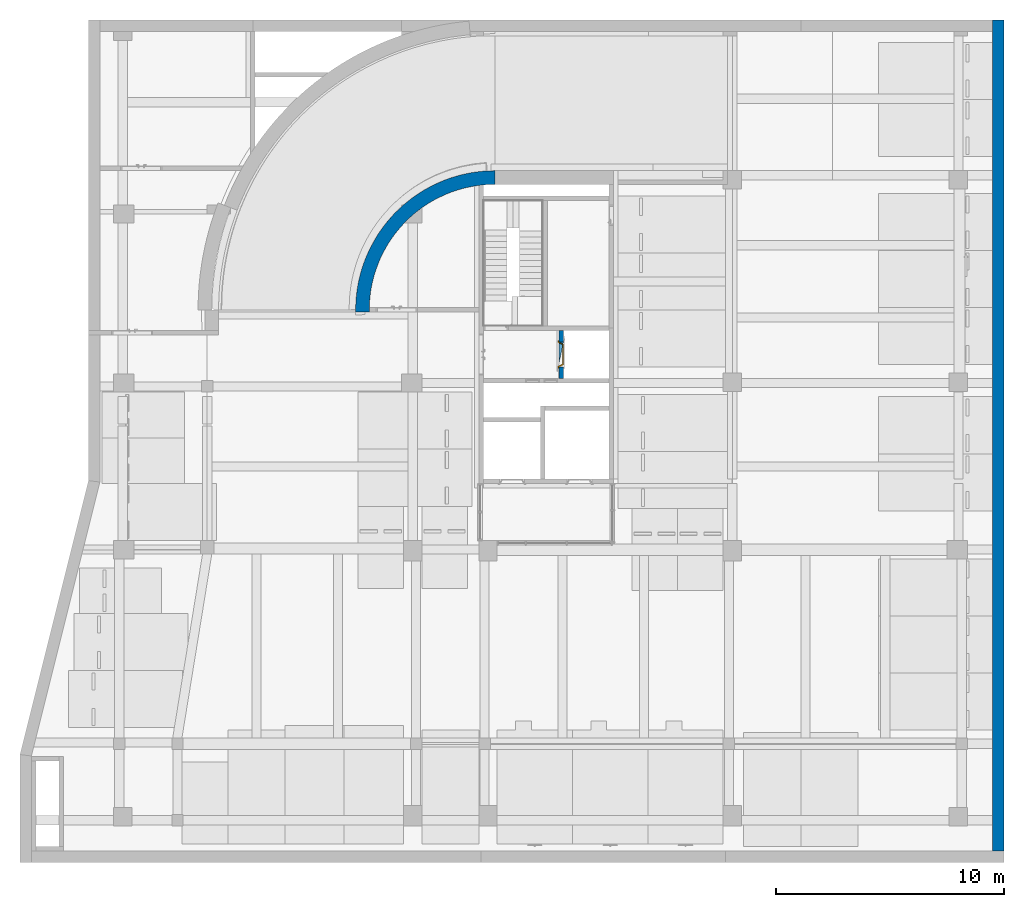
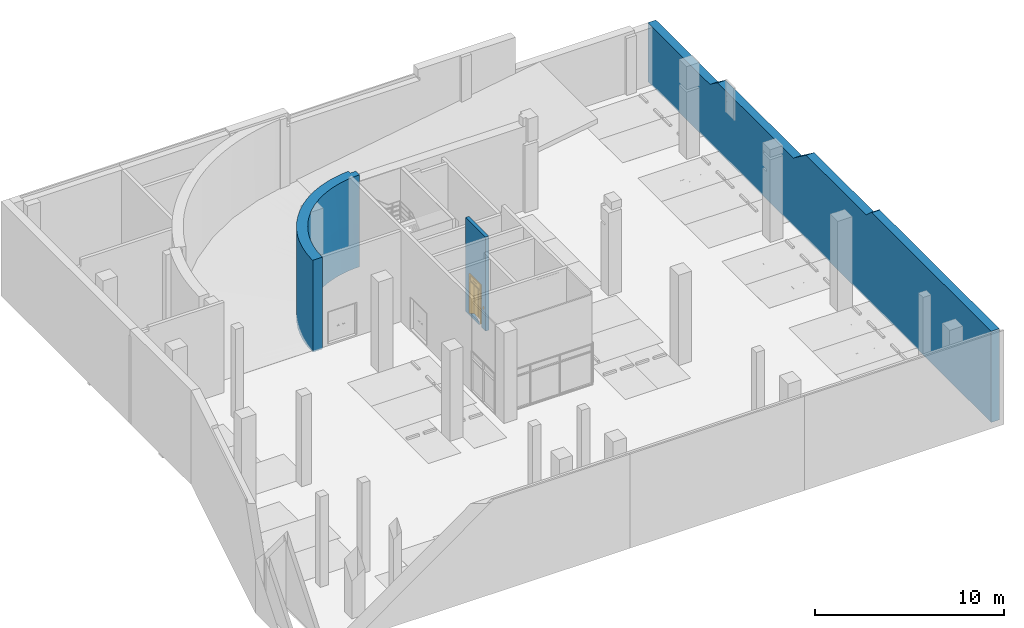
# One storey, part 24 of 29: 3 walls, 1 door, 1 opening.
"""IFC2X3 building model written with IfcOpenShell, lengths in millimetres."""

from ifc_helpers import new_model, entity, si_unit, converted_unit, derived_unit, direction, frame, frame_2d, origin, place, context, subcontext, project, spatial, rectangle, extrude, faceted_brep, source, transform, mapped, material, material_list, layer, layer_set, type_object, type_shapes, element, fill, save


model = new_model("IFC2X3")

# Units and contexts
model_context = context("Model", 3, precision=0.01, world=origin(), true_north=direction((6.123031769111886e-17, 1.0)))
body_context = subcontext(model_context, "Body", "Model", "MODEL_VIEW")
ifc_project = project(units=[si_unit("LENGTHUNIT", "METRE", prefix="MILLI"), si_unit("AREAUNIT", "SQUARE_METRE"), si_unit("VOLUMEUNIT", "CUBIC_METRE"), converted_unit("PLANEANGLEUNIT", "DEGREE", entity("IfcRatioMeasure", 0.017453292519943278), si_unit("PLANEANGLEUNIT", "RADIAN"), dimensions=[0, 0, 0, 0, 0, 0, 0]), si_unit("MASSUNIT", "GRAM", prefix="KILO"), derived_unit("MASSDENSITYUNIT", [(si_unit("MASSUNIT", "GRAM", prefix="KILO"), 1), (si_unit("LENGTHUNIT", "METRE"), -3)]), derived_unit("MOMENTOFINERTIAUNIT", [(si_unit("LENGTHUNIT", "METRE"), 4)]), si_unit("TIMEUNIT", "SECOND"), si_unit("FREQUENCYUNIT", "HERTZ"), si_unit("THERMODYNAMICTEMPERATUREUNIT", "DEGREE_CELSIUS"), derived_unit("THERMALTRANSMITTANCEUNIT", [(si_unit("MASSUNIT", "GRAM", prefix="KILO"), 1), (si_unit("THERMODYNAMICTEMPERATUREUNIT", "KELVIN"), -1), (si_unit("TIMEUNIT", "SECOND"), -3)]), derived_unit("VOLUMETRICFLOWRATEUNIT", [(si_unit("LENGTHUNIT", "METRE"), 3), (si_unit("TIMEUNIT", "SECOND"), -1)]), derived_unit("MASSFLOWRATEUNIT", [(si_unit("MASSUNIT", "GRAM", prefix="KILO"), 1), (si_unit("TIMEUNIT", "SECOND"), -1)]), derived_unit("ROTATIONALFREQUENCYUNIT", [(si_unit("TIMEUNIT", "SECOND"), -1)]), si_unit("ELECTRICCURRENTUNIT", "AMPERE"), si_unit("ELECTRICVOLTAGEUNIT", "VOLT"), si_unit("POWERUNIT", "WATT"), si_unit("FORCEUNIT", "NEWTON", prefix="KILO"), si_unit("ILLUMINANCEUNIT", "LUX"), si_unit("LUMINOUSFLUXUNIT", "LUMEN"), si_unit("LUMINOUSINTENSITYUNIT", "CANDELA"), derived_unit("USERDEFINED", [(si_unit("MASSUNIT", "GRAM", prefix="KILO"), -1), (si_unit("LENGTHUNIT", "METRE"), -2), (si_unit("TIMEUNIT", "SECOND"), 3), (si_unit("LUMINOUSFLUXUNIT", "LUMEN"), 1)]), derived_unit("SOUNDPOWERUNIT", [(si_unit("MASSUNIT", "GRAM", prefix="KILO"), 1), (si_unit("LENGTHUNIT", "METRE"), 2), (si_unit("TIMEUNIT", "SECOND"), -3)]), derived_unit("SOUNDPRESSUREUNIT", [(si_unit("MASSUNIT", "GRAM", prefix="KILO"), 1), (si_unit("LENGTHUNIT", "METRE"), -1), (si_unit("TIMEUNIT", "SECOND"), -2)]), derived_unit("LINEARVELOCITYUNIT", [(si_unit("LENGTHUNIT", "METRE"), 1), (si_unit("TIMEUNIT", "SECOND"), -1)]), si_unit("PRESSUREUNIT", "PASCAL"), derived_unit("USERDEFINED", [(si_unit("LENGTHUNIT", "METRE"), -2), (si_unit("MASSUNIT", "GRAM", prefix="KILO"), 1), (si_unit("TIMEUNIT", "SECOND"), -2)]), derived_unit("LINEARFORCEUNIT", [(si_unit("MASSUNIT", "GRAM", prefix="KILO"), 1), (si_unit("LENGTHUNIT", "METRE"), 1), (si_unit("TIMEUNIT", "SECOND"), -2), (si_unit("LENGTHUNIT", "METRE"), -1)]), derived_unit("PLANARFORCEUNIT", [(si_unit("MASSUNIT", "GRAM", prefix="KILO"), 1), (si_unit("LENGTHUNIT", "METRE"), 1), (si_unit("TIMEUNIT", "SECOND"), -2), (si_unit("LENGTHUNIT", "METRE"), -2)])], contexts=[model_context])

# Site, building, storey
site_placement = place(None, frame((-14167.972527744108, -657.2125860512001, 0.0)))
site = spatial("IfcSite", under=ifc_project, at=site_placement, Name="Default", CompositionType="ELEMENT")
building_placement = place(site_placement, origin())
building = spatial("IfcBuilding", under=site, at=building_placement, Name="Sample Building", CompositionType="ELEMENT")
storey_placement = place(building_placement, frame((0.0, 0.0, -6100.0)))
storey = spatial("IfcBuildingStorey", under=building, at=storey_placement, Name="지하1층", CompositionType="ELEMENT", Elevation=-6099.999999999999)

# Walls
ifc_material_1 = material(Name="KBIMS-콘크리트")
ifc_layer_1 = layer(ifc_material_1, 500.00000000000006)
ifc_layer_set_1 = layer_set([ifc_layer_1], Name="기본 벽:WA111-철근콘크리트구조 벽 500mm_BW3")
wall_type_1 = type_object("IfcWallType", Name="기본 벽:WA111-철근콘크리트구조 벽 500mm_BW3", PredefinedType="STANDARD", material=ifc_layer_set_1)
wall_1_placement = place(storey_placement, frame((52817.97249113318, 35857.21230798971, 0.0), z_axis=(0.0, 0.0, 1.0), x_axis=(0.0, -1.0, 0.0)))
element("IfcWall", 1, at=wall_1_placement, inside=storey, type_object=wall_type_1, Name="기본 벽:WA111-철근콘크리트구조 벽 500mm_BW3", ObjectType="기본 벽:WA111-철근콘크리트구조 벽 500mm_BW3", context=body_context, shape_type="Brep", body=[
    faceted_brep([(0.0, -250.0, 0.0), (500.0, -250.0, 0.0), (36400.0, -250.0, 0.0), (36400.0, -250.0, 100.0), (36400.0, -250.0, 5900.0), (23739.999578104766, -250.0, 5900.0), (23739.999578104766, -250.0, 5941.869968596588), (23199.999578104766, -250.0, 5441.869968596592), (23199.999578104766, -250.0, 5400.0), (16782.004464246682, -250.0, 5400.0), (15500.0, -250.0, 4450.36706352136), (15500.0, -250.0, 4400.0), (7410.0, -250.0, 4400.0), (7410.0, -250.0, 4413.330026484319), (6599.999912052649, -250.0, 3813.3299518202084), (6599.999912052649, -250.0, 3800.0), (500.0, -250.0, 3800.0), (0.0, -250.0, 3800.0), (36400.0, 250.0, 0.0), (500.03468359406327, 250.0, 0.0), (0.0, 250.0, 0.0), (0.0, 250.0, 3800.0), (6599.999912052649, 250.0, 3800.0), (6599.999912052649, 250.0, 3813.3299518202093), (7410.0, 250.0, 4413.330026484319), (7410.0, 250.0, 4400.0), (15500.0, 250.0, 4400.0), (15500.0, 250.0, 4450.36706352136), (16782.004464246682, 250.0, 5400.0), (16850.0, 250.0, 5400.0), (23199.999578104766, 250.0, 5400.0), (23199.999578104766, 250.0, 5441.869968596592), (23739.999578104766, 250.0, 5941.8699685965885), (23739.999578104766, 250.0, 5900.0), (36400.0, 250.0, 5900.0)], [[[0, 1, 2, 3, 4, 5, 6, 7, 8, 9, 10, 11, 12, 13, 14, 15, 16, 17]], [[18, 19, 20, 21, 22, 23, 24, 25, 26, 27, 28, 29, 30, 31, 32, 33, 34]], [[22, 15, 14, 23]], [[2, 1, 0, 20, 19, 18]], [[6, 32, 31, 7]], [[28, 9, 8, 30, 29]], [[9, 28, 27, 10]], [[11, 26, 25, 12]], [[14, 13, 24, 23]], [[15, 22, 21, 17, 16]], [[5, 4, 34, 33]], [[5, 33, 32, 6]], [[26, 11, 10, 27]], [[30, 8, 7, 31]], [[2, 18, 34, 4, 3]], [[0, 17, 21, 20]], [[13, 12, 25, 24]]]),
])
ifc_layer_2 = layer(ifc_material_1, 600.0)
ifc_layer_set_2 = layer_set([ifc_layer_2], Name="기본 벽:WA111-철근콘크리트구조 벽 300mm_RaW1")
wall_type_2 = type_object("IfcWallType", Name="기본 벽:WA111-철근콘크리트구조 벽 300mm_RaW1", PredefinedType="STANDARD", material=ifc_layer_set_2)
wall_2_placement = place(storey_placement, frame((24968.931248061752, 23051.7577625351, 0.0)))
element("IfcWall", 2, at=wall_2_placement, inside=storey, type_object=wall_type_2, Name="기본 벽:WA111-철근콘크리트구조 벽 300mm_RaW1", ObjectType="기본 벽:WA111-철근콘크리트구조 벽 300mm_RaW1", context=body_context, shape_type="Brep", body=[
    faceted_brep([(1256.4441342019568, 3206.230497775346, 5950.0), (1387.1876230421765, 3389.590297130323, 5950.0), (1525.3280817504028, 3567.4446977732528, 5950.0), (1670.633925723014, 3739.4954123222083, 5950.0), (1822.8603493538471, 3905.452567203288, 5950.0), (1967.7995054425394, 4051.539535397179, 5950.0), (2118.0965378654, 4192.0969419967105, 5950.0), (2273.543509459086, 4326.931269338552, 5950.0), (2433.924933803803, 4455.855932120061, 5950.0), (2599.0154746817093, 4578.689712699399, 5950.0), (2779.816323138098, 4702.658139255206, 5950.0), (2965.4108078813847, 4819.321064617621, 5950.0), (3145.029875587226, 4922.738392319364, 5950.0), (3328.419513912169, 5019.3153769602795, 5950.0), (3515.3170317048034, 5108.913721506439, 5950.0), (3705.4571736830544, 5191.406348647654, 5950.0), (3898.570187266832, 5266.676277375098, 5950.0), (4094.382116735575, 5334.61674058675, 5950.0), (4292.615184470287, 5395.131334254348, 5950.0), (4492.98847668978, 5448.134226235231, 5950.0), (4695.216906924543, 5493.549926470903, 5950.0), (4898.974719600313, 5531.3069300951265, 5950.0), (4936.621537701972, 5537.4184860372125, 5950.0), (4974.278306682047, 5543.262780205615, 5950.0), (5035.688471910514, 5552.223546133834, 5950.0), (5097.1874394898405, 5560.488464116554, 5950.0), (5197.098394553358, 5572.4157495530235, 5950.0), (5297.187127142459, 5582.51045320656, 5950.0), (5335.749942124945, 5585.907188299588, 5950.0), (5374.34037313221, 5589.03185819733, 5950.0), (5586.510342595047, 5601.34670381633, 5950.0), (5799.041243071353, 5605.4545454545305, 5950.0), (5799.0412430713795, 6005.454545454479, 5950.0), (5449.03251347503, 6005.454545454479, 5950.0), (5449.03251347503, 6195.404782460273, 5950.0), (5411.656129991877, 6193.14152608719, 5950.0), (5374.298910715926, 6190.649201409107, 5950.0), (5335.727576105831, 6187.834050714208, 5950.0), (5297.161767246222, 6184.772840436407, 5950.0), (5197.109425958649, 6175.683378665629, 5950.0), (5097.202870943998, 6164.944467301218, 5950.0), (5035.706246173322, 6157.5054112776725, 5950.0), (4974.289140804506, 6149.441247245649, 5950.0), (4936.630126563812, 6144.183473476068, 5950.0), (4898.974188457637, 6138.685013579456, 5950.0), (4431.975076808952, 6050.29517385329, 5950.0), (3973.231962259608, 5925.799936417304, 5950.0), (3525.5763501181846, 5765.96312512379, 5950.0), (3091.7258663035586, 5571.755255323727, 5950.0), (2674.3143161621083, 5344.3553490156, 5950.0), (2538.7307670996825, 5261.070473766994, 5950.0), (2405.3763075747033, 5174.284618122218, 5950.0), (2274.314178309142, 5084.038118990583, 5950.0), (2236.559385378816, 5057.092962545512, 5950.0), (2199.0109618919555, 5029.861247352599, 5950.0), (2060.552504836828, 4925.589601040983, 5950.0), (1925.1182801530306, 4817.43086939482, 5950.0), (1792.7934829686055, 4705.452103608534, 5950.0), (1745.7003723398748, 4664.009994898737, 5950.0), (1699.0309921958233, 4622.080607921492, 5950.0), (1698.815521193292, 4621.885551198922, 5950.0), (1698.6049024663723, 4621.69377083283, 5950.0), (1591.177731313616, 4521.774808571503, 5950.0), (1486.2108600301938, 4419.326728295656, 5950.0), (1430.3465458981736, 4362.743194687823, 5950.0), (1375.2299971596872, 4305.4415303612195, 5950.0), (1060.6414955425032, 3947.0125409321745, 5950.0), (775.0053773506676, 3565.0879971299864, 5950.0), (520.0799484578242, 3162.015954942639, 5950.0), (297.42323630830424, 2740.259909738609, 5950.0), (108.39614560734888, 2302.397506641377, 5950.0), (-45.84585480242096, 1851.1048005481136, 5950.0), (-164.35978786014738, 1389.1399213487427, 5950.0), (-246.4203516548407, 919.3271700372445, 5950.0), (-269.95736283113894, 719.6661714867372, 5950.0), (-286.9022535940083, 519.3273459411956, 5950.0), (-290.50592988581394, 462.4072430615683, 5950.0), (-293.57668643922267, 405.454401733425, 5950.0), (-300.13795497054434, 205.52007484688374, 5950.0), (-300.13902971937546, 5.454545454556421, 5950.0), (299.95040912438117, 5.45454545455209, 5950.0), (299.04124309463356, 105.4705351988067, 5950.0), (299.9505996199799, 205.4650198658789, 5950.0), (302.6800467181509, 305.4885406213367, 5950.0), (307.2299946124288, 405.458432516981, 5950.0), (310.6370151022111, 462.41256877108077, 5950.0), (314.634882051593, 519.3226875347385, 5950.0), (333.45329263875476, 719.741413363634, 5950.0), (359.5927503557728, 919.332140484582, 5950.0), (397.4694824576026, 1141.3225461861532, 5950.0), (444.4028087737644, 1361.578439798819, 5950.0), (500.31318475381, 1579.7275744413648, 5950.0), (565.1068251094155, 1795.4043992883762, 5950.0), (638.6750736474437, 2008.2474920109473, 5950.0), (720.8945880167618, 2217.9001778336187, 5950.0), (811.6275459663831, 2424.011125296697, 5950.0), (910.7218757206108, 2626.234933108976, 5950.0), (1018.0115100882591, 2824.232707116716, 5950.0), (1133.3166638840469, 3017.6726264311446, 5950.0), (5799.041243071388, 6205.454545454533, 0.0), (5799.041243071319, 5605.4545454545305, 0.0), (5547.853252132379, 5599.71560525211, 0.0), (5297.187296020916, 5582.51049450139, 0.0), (5197.097200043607, 5572.41561803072, 0.0), (5097.185888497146, 5560.48831686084, 0.0), (4853.487961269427, 5523.565746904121, 0.0), (4611.685555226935, 5475.760539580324, 0.0), (4372.2679578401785, 5417.169710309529, 0.0), (4135.715872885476, 5347.910907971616, 0.0), (3902.504255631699, 5268.123182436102, 0.0), (3673.101361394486, 5177.966706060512, 0.0), (3447.967807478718, 5077.622452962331, 0.0), (3227.5556503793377, 4967.291836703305, 0.0), (3012.3074800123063, 4847.196307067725, 0.0), (2802.6559821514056, 4717.577198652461, 0.0), (2599.0178163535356, 4578.691518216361, 0.0), (2393.378038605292, 4424.187940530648, 0.0), (2195.1840555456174, 4260.236533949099, 0.0), (2004.8723285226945, 4087.198164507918, 0.0), (1822.8559031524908, 3905.447517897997, 0.0), (1660.2925014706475, 3727.7133509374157, 0.0), (1505.6647874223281, 3543.0290697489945, 0.0), (1359.2718085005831, 3351.7520314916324, 0.0), (1221.3943883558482, 3154.249270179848, 0.0), (1092.2968483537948, 2950.899537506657, 0.0), (972.2266834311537, 2742.0927851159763, 0.0), (861.4140886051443, 2528.229418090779, 0.0), (760.0715185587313, 2309.7195284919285, 0.0), (668.3932811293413, 2086.9821103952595, 0.0), (586.5551654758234, 1860.4442579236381, 0.0), (514.7141056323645, 1630.5403478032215, 0.0), (453.00788009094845, 1397.7112080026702, 0.0), (401.5548479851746, 1162.4032740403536, 0.0), (360.453722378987, 925.0677345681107, 0.0), (329.7833800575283, 686.1596581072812, 0.0), (309.60271988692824, 446.137242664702, 0.0), (299.9508993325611, 205.47420627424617, 0.0), (299.04124310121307, 105.47265813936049, 0.0), (299.95040912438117, 5.45454545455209, 0.0), (-300.13902971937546, 5.454545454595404, 0.0), (-300.2167918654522, 10.315577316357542, 0.0), (-300.2906809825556, 15.176750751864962, 0.0), (-298.4830618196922, 279.22839637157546, 0.0), (-285.24923642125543, 542.9581010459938, 0.0), (-260.61396412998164, 805.8678304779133, 0.0), (-224.6234548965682, 1067.4647358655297, 0.0), (-177.3451811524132, 1327.258665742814, 0.0), (-53.29115972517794, 1825.979304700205, 0.0), (112.30115893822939, 2312.4858582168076, 0.0), (318.2561227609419, 2783.3258016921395, 0.0), (699.5946995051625, 3452.937920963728, 0.0), (999.4598644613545, 3870.2943282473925, 0.0), (1333.3910101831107, 4260.929006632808, 0.0), (1699.0159826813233, 4622.066991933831, 0.0), (1745.6934629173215, 4664.003851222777, 0.0), (1792.7998544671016, 4705.4574522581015, 0.0), (2194.3233367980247, 5026.4309542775, 0.0), (2621.448776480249, 5312.460030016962, 0.0), (3071.1399102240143, 5561.511209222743, 0.0), (3540.203652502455, 5771.8160534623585, 0.0), (3780.9641709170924, 5861.960858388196, 0.0), (4272.805413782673, 6011.434920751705, 0.0), (4775.486827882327, 6118.9673590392, 0.0), (5285.439095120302, 6183.794189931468, 0.0), (5799.041243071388, 6205.454545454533, 1265.0), (5799.041243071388, 6205.454545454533, 1565.0), (5449.03251347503, 6195.404782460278, 5550.0), (5005.000990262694, 6153.553426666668, 2749.8478241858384), (5799.041243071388, 6205.454545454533, 5550.0), (5799.041243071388, 6205.454545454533, 5350.0), (5623.964753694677, 6202.941587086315, 5550.0), (4555.235418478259, 6077.300748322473, 2828.9454773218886), (2982.673769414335, 5516.376301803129, 2996.6811334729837), (2606.251135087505, 5303.155126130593, 3000.580821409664), (3660.108967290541, 5818.156946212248, 2993.289292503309), (2217.761253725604, 5043.514249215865, 2973.7090814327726), (4122.586191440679, 5970.56310880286, 2975.315324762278), (1769.1901138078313, 4684.788544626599, 2974.9975322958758), (199.28283340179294, 2524.6911509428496, 2989.913636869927), (26.862968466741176, 2078.259139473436, 2952.5465614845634), (-300.13902971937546, 5.454545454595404, 2727.108361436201), (-288.77087751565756, 490.8680693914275, 2966.862175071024), (-202.39024912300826, 1197.6175573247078, 3063.049467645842), (1402.7017373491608, 4334.1894567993, 2938.44646595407), (-104.153850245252, 1642.428094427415, 3097.841599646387), (404.62820193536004, 2953.314784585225, 3062.358312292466), (631.454028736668, 3346.7571203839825, 3105.273704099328), (914.0894659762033, 3758.842854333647, 3133.191347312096), (299.95040912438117, 5.45454545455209, 3360.4826676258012), (312.56210573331, 490.8720795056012, 2969.910249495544), (4917.811742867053, 5534.398693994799, 2958.441406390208), (5355.028853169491, 5587.502793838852, 2962.2551694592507), (352.9055558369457, 873.3126548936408, 2722.689354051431), (419.8087137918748, 1251.6907322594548, 2993.6133158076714), (1894.6484986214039, 3979.1759212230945, 2974.9980112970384), (2515.8989466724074, 4518.047508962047, 2974.998028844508), (531.6060196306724, 1687.8976461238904, 3013.7380981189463), (2195.1876614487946, 4260.239661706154, 2928.9198036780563), (3236.2697213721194, 4971.890831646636, 3020.2844316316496), (765.2060519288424, 2321.420084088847, 3028.2537362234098), (3801.65908724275, 5229.951059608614, 2971.228770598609), (4392.552134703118, 5422.5767358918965, 3018.8224760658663), (1074.6739299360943, 2921.542876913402, 3023.960543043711), (1455.347466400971, 3479.224599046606, 3000.856912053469), (2867.278609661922, 4758.92291446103, 3009.473130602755), (5799.041243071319, 5605.4545454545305, 2775.0), (5799.041243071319, 5605.4545454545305, 5550.0), (5799.041243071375, 6005.454545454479, 5550.0), (5449.03251347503, 6005.454545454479, 5550.0)], [[[0, 1, 2, 3, 4, 5, 6, 7, 8, 9, 10, 11, 12, 13, 14, 15, 16, 17, 18, 19, 20, 21, 22, 23, 24, 25, 26, 27, 28, 29, 30, 31, 32, 33, 34, 35, 36, 37, 38, 39, 40, 41, 42, 43, 44, 45, 46, 47, 48, 49, 50, 51, 52, 53, 54, 55, 56, 57, 58, 59, 60, 61, 62, 63, 64, 65, 66, 67, 68, 69, 70, 71, 72, 73, 74, 75, 76, 77, 78, 79, 80, 81, 82, 83, 84, 85, 86, 87, 88, 89, 90, 91, 92, 93, 94, 95, 96, 97, 98]], [[99, 100, 101, 102, 103, 104, 105, 106, 107, 108, 109, 110, 111, 112, 113, 114, 115, 116, 117, 118, 119, 120, 121, 122, 123, 124, 125, 126, 127, 128, 129, 130, 131, 132, 133, 134, 135, 136, 137, 138, 139, 140, 141, 142, 143, 144, 145, 146, 147, 148, 149, 150, 151, 152, 153, 154, 155, 156, 157, 158, 159, 160, 161, 162, 163]], [[164, 99, 163, 165]], [[166, 163, 167]], [[168, 169, 165, 170]], [[165, 166, 170]], [[166, 165, 163]], [[162, 171, 167]], [[158, 172, 159]], [[172, 157, 173]], [[172, 174, 159]], [[175, 157, 156]], [[45, 44, 171]], [[160, 174, 176]], [[176, 171, 161]], [[175, 55, 54]], [[175, 56, 55]], [[162, 161, 171]], [[177, 56, 175]], [[70, 178, 179]], [[155, 177, 175]], [[175, 54, 53]], [[177, 154, 153]], [[167, 39, 38]], [[140, 139, 180]], [[41, 167, 42]], [[42, 167, 43]], [[57, 177, 58]], [[167, 40, 39]], [[78, 181, 180]], [[53, 52, 175]], [[35, 34, 166]], [[40, 167, 41]], [[37, 36, 166]], [[38, 37, 166]], [[51, 175, 52]], [[35, 166, 36]], [[163, 162, 167]], [[77, 76, 181]], [[38, 166, 167]], [[174, 46, 176]], [[50, 49, 173]], [[73, 72, 182]], [[51, 50, 173]], [[175, 156, 155]], [[144, 182, 145]], [[51, 173, 175]], [[148, 147, 179]], [[153, 183, 177]], [[167, 171, 44]], [[175, 173, 157]], [[174, 160, 159]], [[174, 172, 47]], [[49, 48, 172]], [[176, 45, 171]], [[47, 46, 174]], [[63, 183, 64]], [[158, 157, 172]], [[167, 44, 43]], [[147, 146, 184]], [[178, 69, 185]], [[186, 187, 150]], [[149, 185, 150]], [[148, 178, 149]], [[154, 177, 155]], [[183, 152, 151]], [[183, 153, 152]], [[187, 183, 151]], [[70, 179, 71]], [[181, 143, 142]], [[78, 180, 79]], [[180, 142, 141]], [[77, 181, 78]], [[146, 145, 182]], [[143, 181, 144]], [[180, 141, 140]], [[181, 182, 144]], [[182, 184, 146]], [[75, 181, 76]], [[187, 186, 67]], [[183, 63, 62]], [[72, 184, 182]], [[65, 183, 66]], [[67, 66, 187]], [[147, 184, 179]], [[183, 65, 64]], [[176, 161, 160]], [[183, 187, 66]], [[58, 177, 59]], [[150, 187, 151]], [[60, 177, 61]], [[61, 177, 62]], [[178, 185, 149]], [[177, 60, 59]], [[68, 67, 186]], [[45, 176, 46]], [[177, 183, 62]], [[182, 181, 73]], [[74, 181, 75]], [[181, 142, 180]], [[74, 73, 181]], [[172, 48, 47]], [[69, 68, 185]], [[178, 70, 69]], [[179, 184, 71]], [[148, 179, 178]], [[49, 172, 173]], [[72, 71, 184]], [[150, 185, 186]], [[185, 68, 186]], [[57, 56, 177]], [[188, 82, 81]], [[86, 189, 87]], [[189, 135, 134]], [[23, 190, 24]], [[83, 189, 84]], [[136, 189, 188]], [[190, 105, 104]], [[188, 189, 83]], [[29, 191, 30]], [[191, 102, 101]], [[192, 88, 87]], [[85, 189, 86]], [[83, 82, 188]], [[81, 80, 188]], [[193, 90, 89]], [[89, 192, 193]], [[194, 119, 118]], [[192, 89, 88]], [[195, 116, 115]], [[84, 189, 85]], [[196, 92, 91]], [[197, 117, 116]], [[14, 13, 198]], [[112, 198, 113]], [[199, 95, 94]], [[93, 199, 94]], [[200, 110, 109]], [[199, 93, 196]], [[111, 110, 200]], [[201, 20, 19]], [[202, 98, 97]], [[96, 202, 97]], [[107, 201, 108]], [[196, 91, 90]], [[203, 2, 1]], [[0, 203, 1]], [[133, 132, 192]], [[0, 202, 203]], [[3, 2, 203]], [[202, 96, 199]], [[121, 203, 122]], [[193, 196, 90]], [[137, 136, 188]], [[188, 138, 137]], [[135, 189, 136]], [[192, 189, 134]], [[192, 132, 193]], [[193, 132, 131]], [[131, 196, 193]], [[196, 130, 129]], [[196, 129, 128]], [[5, 194, 6]], [[202, 199, 126]], [[126, 199, 127]], [[93, 92, 196]], [[131, 130, 196]], [[194, 4, 3]], [[126, 125, 202]], [[199, 196, 128]], [[194, 5, 4]], [[123, 202, 124]], [[123, 203, 202]], [[203, 123, 122]], [[120, 203, 121]], [[194, 203, 120]], [[119, 194, 120]], [[203, 194, 3]], [[96, 95, 199]], [[6, 197, 7]], [[127, 199, 128]], [[0, 98, 202]], [[124, 202, 125]], [[195, 204, 9]], [[10, 9, 204]], [[10, 204, 11]], [[7, 195, 8]], [[113, 198, 204]], [[191, 205, 30]], [[198, 13, 12]], [[11, 198, 12]], [[194, 197, 6]], [[195, 197, 116]], [[16, 200, 17]], [[200, 14, 198]], [[133, 192, 134]], [[200, 15, 14]], [[87, 189, 192]], [[11, 204, 198]], [[201, 19, 18]], [[201, 17, 200]], [[21, 190, 22]], [[20, 190, 21]], [[20, 201, 190]], [[191, 26, 25]], [[24, 190, 25]], [[25, 190, 191]], [[28, 27, 191]], [[191, 27, 26]], [[22, 190, 23]], [[201, 18, 17]], [[197, 118, 117]], [[8, 195, 9]], [[195, 115, 204]], [[204, 115, 114]], [[114, 113, 204]], [[198, 112, 111]], [[111, 200, 198]], [[15, 200, 16]], [[200, 109, 108]], [[197, 194, 118]], [[201, 107, 106]], [[108, 201, 200]], [[190, 201, 106]], [[206, 31, 30, 205]], [[205, 101, 100]], [[190, 106, 105]], [[104, 191, 190]], [[191, 104, 103]], [[102, 191, 103]], [[101, 205, 191]], [[28, 191, 29]], [[7, 197, 195]], [[31, 206, 205, 100, 99, 164, 165, 169, 168, 207, 32]], [[138, 188, 80, 79, 180, 139]], [[32, 207, 208, 33]], [[170, 166, 208, 207, 168]], [[33, 208, 166, 34]]]),
])

# Wall, opening, door
ifc_layer_3 = layer(ifc_material_1, 200.0)
ifc_layer_set_3 = layer_set([ifc_layer_3], Name="기본 벽:WA111-철근콘크리트구조 벽 200mm_CW3")
wall_type_3 = type_object("IfcWallType", Name="기본 벽:WA111-철근콘크리트구조 벽 200mm_CW3", PredefinedType="STANDARD", material=ifc_layer_set_3)
wall_3_placement = place(storey_placement, frame((33667.97249113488, 22257.212311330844, 0.0), z_axis=(0.0, 0.0, 1.0), x_axis=(0.0, -1.0, 0.0)))
wall_3 = element("IfcWall", 3, at=wall_3_placement, inside=storey, type_object=wall_type_3, Name="기본 벽:WA111-철근콘크리트구조 벽 200mm_CW3", ObjectType="기본 벽:WA111-철근콘크리트구조 벽 200mm_CW3", context=body_context, shape_type="Brep", body=[
    faceted_brep([(2100.0, -100.0, 6100.0), (0.0, -100.0, 6100.0), (0.0, -100.0, 0.0), (1471.1616249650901, -100.0, 0.0), (1471.1616249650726, -100.0, 200.0), (500.0000016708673, -100.0, 200.0), (500.0000016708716, -100.0, 2750.0), (1600.0, -100.0, 2750.0), (1600.0, -100.0, 200.0), (1660.0, -100.0, 200.0), (1660.0, -100.0, 0.0), (2100.0, -100.0, 0.0), (0.0, 100.0, 6100.0), (2100.0, 100.0, 6100.0), (2100.0, 100.0, 0.0), (1660.0, 100.0, 0.0), (1660.0, 100.0, 200.0), (1600.0, 100.0, 200.0), (1600.0, 100.0, 2750.0), (500.0000016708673, 100.0, 2750.0), (500.0000016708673, 100.0, 200.0), (526.9697414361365, 100.0, 200.0), (526.9697414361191, 100.0, 0.0), (0.0, 100.0, 0.0)], [[[0, 1, 2, 3, 4, 5, 6, 7, 8, 9, 10, 11]], [[12, 13, 14, 15, 16, 17, 18, 19, 20, 21, 22, 23]], [[2, 23, 22, 3]], [[1, 0, 13, 12]], [[0, 11, 14, 13]], [[16, 9, 8, 17]], [[19, 6, 5, 20]], [[6, 19, 18, 7]], [[7, 18, 17, 8]], [[20, 5, 4, 21]], [[1, 12, 23, 2]], [[4, 3, 22, 21]], [[9, 16, 15, 10]], [[14, 11, 10, 15]]]),
])
opening_placement = place(wall_3_placement, frame((500.0000016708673, -100.0, 200.0)))
opening = element("IfcOpeningElement", 4, at=opening_placement, cuts=wall_3, Name="EE111-엘리베이터문(문):EE111-엘리베이터문(13인승)_1100x2550:1", ObjectType="Opening", context=body_context, shape_type="SweptSolid", body=[
    extrude(rectangle(XDim=2549.999999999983, YDim=1099.9999999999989, at=frame_2d((1274.9999999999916, 550.0000000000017), x_axis=(1.0, 0.0))), frame((0.0, 0.0, 0.0), z_axis=(0.0, 1.0, 0.0), x_axis=(0.0, 0.0, 1.0)), (0.0, 0.0, 1.0), 200.0),
])
ifc_material_2 = material(Name="<Unnamed>")
ifc_material_list_1 = material_list([ifc_material_2, ifc_material_2, ifc_material_2, ifc_material_2])
ifc_material_list_2 = material_list([ifc_material_2, ifc_material_2, ifc_material_2, ifc_material_2])
door_style = type_object("IfcDoorStyle", Name="EE111-엘리베이터문(문):EE111-엘리베이터문(13인승)_1100x2550", ConstructionType="NOTDEFINED", OperationType="DOUBLE_DOOR_SLIDING", ParameterTakesPrecedence=False, Sizeable=False, material=ifc_material_list_2)
shared_shape = source(origin(), body_context, "Body", "Brep", [
    faceted_brep([(-296.2736811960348, 220.43384628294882, 1175.0), (-313.5941892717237, 220.4338462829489, 1145.0), (-330.9146973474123, 220.43384628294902, 1175.0), (-296.2736811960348, 215.04269782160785, 1175.0), (-330.9146973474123, 215.0426978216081, 1175.0), (-313.5941892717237, 215.04269782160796, 1145.0)], [[[0, 1, 2]], [[3, 4, 5]], [[1, 0, 3, 5]], [[2, 1, 5, 4]], [[0, 2, 4, 3]]]),
    faceted_brep([(-330.9146973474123, 220.43384628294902, 1225.0), (-296.2736811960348, 220.43384628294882, 1225.0), (-296.2736811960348, 215.04269782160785, 1225.0), (-330.9146973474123, 215.04269782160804, 1225.0), (-313.5941892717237, 220.4338462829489, 1255.0), (-313.5941892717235, 215.04269782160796, 1255.0)], [[[0, 1, 2, 3]], [[4, 0, 3, 5]], [[1, 4, 5, 2]], [[2, 5, 3]], [[1, 0, 4]]]),
    faceted_brep([(-351.5567877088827, 215.0426978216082, 1277.0326998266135), (-275.63159083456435, 215.04269782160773, 1277.0326998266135), (-275.63159083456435, 215.04269782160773, 1122.967300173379), (-351.5567877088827, 215.0426978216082, 1122.967300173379), (-351.55678770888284, 200.0, 1277.0326998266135), (-351.55678770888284, 200.0, 1122.967300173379), (-275.6315908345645, 200.0, 1122.967300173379), (-275.6315908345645, 200.0, 1277.0326998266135)], [[[0, 1, 2, 3]], [[4, 5, 6, 7]], [[1, 0, 4, 7]], [[2, 1, 7, 6]], [[3, 2, 6, 5]], [[0, 3, 5, 4]]]),
    faceted_brep([(-60.0, 200.0, 2550.0), (-60.0, 240.0, 2550.0), (-60.0, 240.0, 0.0), (-60.0, 200.0, 0.0), (703.014298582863, 240.0, 2550.0), (703.014298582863, 240.0, 2500.0), (27.911234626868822, 240.0, 2500.0), (27.911234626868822, 240.0, 2150.0), (703.014298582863, 240.0, 2150.0), (703.014298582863, 240.0, 2100.0), (27.911234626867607, 240.0, 2100.0), (27.911234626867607, 240.0, 0.0), (978.5926496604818, 40.0, 0.0), (1078.5926496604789, 240.0, 0.0), (1160.0, 240.0, 0.0), (1160.0, 200.0, 0.0), (1100.0, 200.0, 0.0), (1000.0, 0.0, 0.0), (555.0, 0.0, 0.0), (555.0, 40.0, 0.0), (0.0, 200.0, 2550.0), (0.0, 200.0, 0.0), (100.0, 0.0, 2550.0), (100.0, 0.0, 0.0), (1000.0, 0.0, 2550.0), (545.0, 0.0, 0.0), (545.0, 0.0, 2100.0), (555.0, 0.0, 2100.0), (545.0, 40.0, 0.0), (545.0, 40.0, 2100.0), (555.0, 40.0, 2100.0), (1100.0, 200.0, 2550.0), (1160.0, 200.0, 2550.0), (1160.0, 240.0, 2550.0), (1078.5926496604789, 240.0, 2100.0), (1078.5926496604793, 240.0, 2150.0), (1078.5926496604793, 240.0, 2500.0), (978.5926496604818, 40.0, 2100.0), (127.91123462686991, 40.0, 0.0), (127.91123462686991, 40.0, 2100.0), (1078.5926496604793, 214.08728771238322, 2150.0), (1078.5926496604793, 214.08728771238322, 2500.0), (27.911234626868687, 214.0872877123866, 2500.0), (27.911234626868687, 214.0872877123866, 2150.0), (550.0, 214.08728771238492, 2370.0), (410.8272722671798, 214.08728771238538, 2370.0), (410.8272722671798, 214.08728771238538, 2300.0), (550.0, 214.08728771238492, 2300.0), (789.172727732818, 214.08728771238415, 2300.0), (789.172727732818, 214.08728771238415, 2370.0), (550.0, 208.4787281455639, 2370.0), (410.8272722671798, 208.47872814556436, 2370.0), (410.8272722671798, 208.47872814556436, 2300.0), (789.172727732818, 208.47872814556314, 2300.0), (789.172727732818, 208.47872814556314, 2370.0), (550.0, 208.4787281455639, 2300.0)], [[[0, 1, 2, 3]], [[2, 1, 4, 5, 6, 7, 8, 9, 10, 11]], [[12, 13, 14, 15, 16, 17, 18, 19]], [[20, 0, 3, 21]], [[22, 20, 21, 23]], [[24, 22, 23, 25, 26, 27, 18, 17]], [[25, 28, 29, 26]], [[19, 18, 27, 30]], [[31, 24, 17, 16]], [[32, 31, 16, 15]], [[33, 32, 15, 14]], [[4, 33, 14, 13, 34, 9, 8, 35, 36, 5]], [[13, 12, 37, 34]], [[38, 11, 10, 39]], [[38, 39, 29, 28]], [[37, 12, 19, 30]], [[1, 0, 20, 22, 24, 31, 32, 33, 4]], [[40, 41, 36, 35]], [[41, 42, 6, 5, 36]], [[42, 43, 7, 6]], [[43, 42, 41, 40], [44, 45, 46, 47, 48, 49]], [[50, 51, 45, 44]], [[51, 52, 46, 45]], [[53, 54, 49, 48]], [[54, 50, 44, 49]], [[50, 54, 53, 55, 52, 51]], [[10, 9, 34, 37, 30, 27, 26, 29, 39]], [[43, 40, 35, 8, 7]], [[52, 55, 47, 46]], [[55, 53, 48, 47]], [[21, 3, 2, 11, 38, 28, 25, 23]]]),
])
type_shapes(door_style, [shared_shape])
door_placement = place(opening_placement, frame((1100.0, 200.0, 0.0), z_axis=(0.0, 0.0, 1.0), x_axis=(-1.0, 0.0, 0.0)))
door = element("IfcDoor", 5, at=door_placement, inside=storey, type_object=door_style, material=ifc_material_list_1, Name="EE111-엘리베이터문(문):EE111-엘리베이터문(13인승)_1100x2550", ObjectType="EE111-엘리베이터문(문):EE111-엘리베이터문(13인승)_1100x2550", OverallHeight=2549.999999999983, OverallWidth=1100.0000000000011, context=body_context, shape_type="MappedRepresentation", body=[
    mapped(shared_shape, transform((0.0, 0.0, 0.0), scale=1.0)),
])
fill(opening, door)

save(model, "model.ifc")
